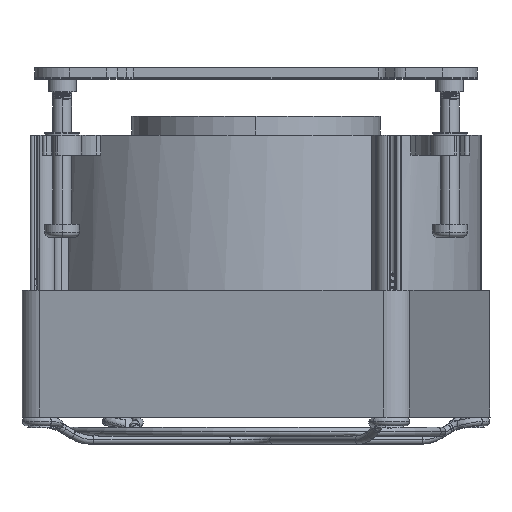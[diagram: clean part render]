
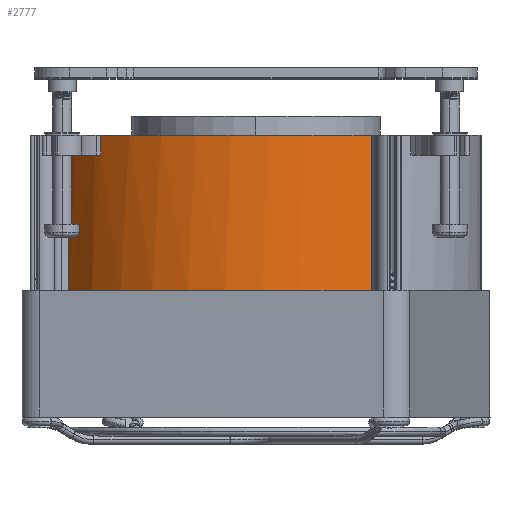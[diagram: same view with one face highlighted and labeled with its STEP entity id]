
A CAD part, front view. The second image highlights one B-rep face of the part: STEP entity #2777.
In plain terms, the highlighted cylindrical face has radius 45.1 mm (diameter 90.2 mm), a partial arc.
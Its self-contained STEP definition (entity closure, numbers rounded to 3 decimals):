
#118=CARTESIAN_POINT('',(823.947,362.341,31.2));
#119=DIRECTION('',(0.,0.,-1.));
#120=DIRECTION('',(0.515,-0.857,0.));
#121=AXIS2_PLACEMENT_3D('',#118,#119,#120);
#194=CARTESIAN_POINT('',(823.947,362.341,31.2));
#195=DIRECTION('',(0.,0.,-1.));
#196=DIRECTION('',(-0.723,-0.691,0.));
#197=AXIS2_PLACEMENT_3D('',#194,#195,#196);
#678=CARTESIAN_POINT('',(823.947,362.341,0.));
#679=DIRECTION('',(0.,0.,1.));
#680=DIRECTION('',(-0.836,-0.549,0.));
#681=AXIS2_PLACEMENT_3D('',#678,#679,#680);
#1002=DIRECTION('',(0.,0.,1.));
#1003=VECTOR('',#1002,4.);
#1004=CARTESIAN_POINT('',(792.763,329.759,27.2));
#1005=LINE('',#1004,#1003);
#1006=DIRECTION('',(0.,0.,-1.));
#1007=VECTOR('',#1006,31.2);
#1008=CARTESIAN_POINT('',(847.165,323.677,31.2));
#1009=LINE('',#1008,#1007);
#1010=DIRECTION('',(0.,0.,1.));
#1011=VECTOR('',#1010,31.2);
#1012=CARTESIAN_POINT('',(786.24,337.599,0.));
#1013=LINE('',#1012,#1011);
#1014=DIRECTION('',(0.,0.,-1.));
#1015=VECTOR('',#1014,4.);
#1016=CARTESIAN_POINT('',(791.35,331.174,31.2));
#1017=LINE('',#1016,#1015);
#1018=CARTESIAN_POINT('',(823.947,362.341,27.2));
#1019=DIRECTION('',(0.,0.,-1.));
#1020=DIRECTION('',(-0.691,-0.722,0.));
#1021=AXIS2_PLACEMENT_3D('',#1018,#1019,#1020);
#1804=CARTESIAN_POINT('',(847.165,323.677,31.2));
#1805=VERTEX_POINT('',#1804);
#1806=CARTESIAN_POINT('',(792.763,329.759,31.2));
#1807=VERTEX_POINT('',#1806);
#1836=CARTESIAN_POINT('',(791.35,331.174,31.2));
#1837=VERTEX_POINT('',#1836);
#1838=CARTESIAN_POINT('',(786.24,337.599,31.2));
#1839=VERTEX_POINT('',#1838);
#2033=CARTESIAN_POINT('',(792.763,329.759,27.2));
#2034=CARTESIAN_POINT('',(791.35,331.174,27.2));
#2035=VERTEX_POINT('',#2033);
#2036=VERTEX_POINT('',#2034);
#2037=CARTESIAN_POINT('',(847.165,323.677,0.));
#2038=VERTEX_POINT('',#2037);
#2039=CARTESIAN_POINT('',(786.24,337.599,0.));
#2040=VERTEX_POINT('',#2039);
#2758=CARTESIAN_POINT('',(823.947,362.341,0.));
#2759=DIRECTION('',(0.,0.,-1.));
#2760=DIRECTION('',(-1.,0.,0.));
#2761=AXIS2_PLACEMENT_3D('',#2758,#2759,#2760);
#2762=CYLINDRICAL_SURFACE('',#2761,45.1);
#2764=ORIENTED_EDGE('',*,*,#2763,.F.);
#2766=ORIENTED_EDGE('',*,*,#2765,.T.);
#2767=ORIENTED_EDGE('',*,*,#2334,.F.);
#2769=ORIENTED_EDGE('',*,*,#2768,.T.);
#2770=ORIENTED_EDGE('',*,*,#2609,.F.);
#2771=ORIENTED_EDGE('',*,*,#2749,.T.);
#2772=ORIENTED_EDGE('',*,*,#2366,.F.);
#2774=ORIENTED_EDGE('',*,*,#2773,.T.);
#2775=EDGE_LOOP('',(#2764,#2766,#2767,#2769,#2770,#2771,#2772,#2774));
#2776=FACE_OUTER_BOUND('',#2775,.F.);
#2777=ADVANCED_FACE('',(#2776),#2762,.T.);
#122=CIRCLE('',#121,45.1);
#198=CIRCLE('',#197,45.1);
#682=CIRCLE('',#681,45.1);
#1022=CIRCLE('',#1021,45.1);
#2334=EDGE_CURVE('',#1805,#1807,#122,.T.);
#2366=EDGE_CURVE('',#1837,#1839,#198,.T.);
#2609=EDGE_CURVE('',#2040,#2038,#682,.T.);
#2749=EDGE_CURVE('',#2040,#1839,#1013,.T.);
#2763=EDGE_CURVE('',#2035,#2036,#1022,.T.);
#2765=EDGE_CURVE('',#2035,#1807,#1005,.T.);
#2768=EDGE_CURVE('',#1805,#2038,#1009,.T.);
#2773=EDGE_CURVE('',#1837,#2036,#1017,.T.);
